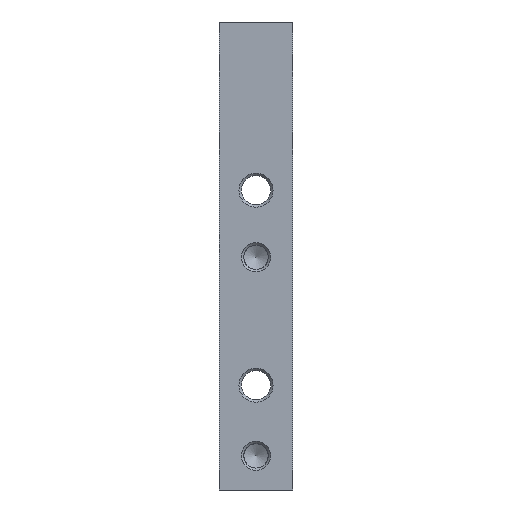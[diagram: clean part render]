
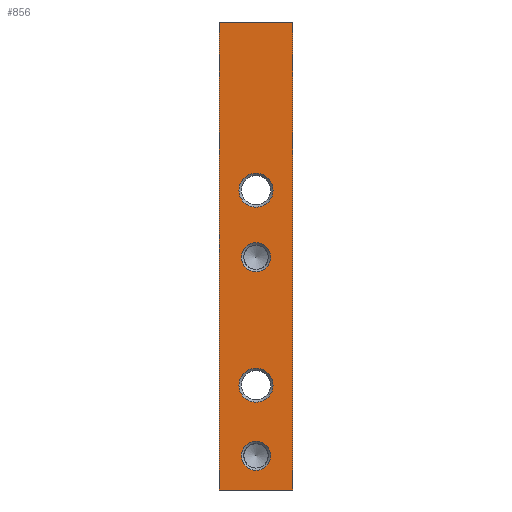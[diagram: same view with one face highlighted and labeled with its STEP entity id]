
A CAD part, left-side view. The second image highlights one B-rep face of the part: STEP entity #856.
In plain terms, the highlighted planar face has unit normal (-1, 0, 0).
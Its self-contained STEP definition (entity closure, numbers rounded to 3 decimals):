
#286=PLANE('',#3210);
#288=LINE('',#4579,#300);
#292=LINE('',#4646,#304);
#296=LINE('',#4749,#308);
#299=LINE('',#4780,#311);
#300=VECTOR('',#3618,1.);
#304=VECTOR('',#3682,1.);
#308=VECTOR('',#3782,1.);
#311=VECTOR('',#3817,1.);
#447=FACE_BOUND('',#1276,.T.);
#448=FACE_BOUND('',#1277,.T.);
#449=FACE_BOUND('',#1278,.T.);
#450=FACE_BOUND('',#1279,.T.);
#451=FACE_BOUND('',#1280,.T.);
#856=ADVANCED_FACE('',(#447,#448,#449,#450,#451),#286,.F.);
#1276=EDGE_LOOP('',(#1811));
#1277=EDGE_LOOP('',(#1812));
#1278=EDGE_LOOP('',(#1813));
#1279=EDGE_LOOP('',(#1814));
#1280=EDGE_LOOP('',(#1815,#1816,#1817,#1818));
#1811=ORIENTED_EDGE('',*,*,#2688,.T.);
#1812=ORIENTED_EDGE('',*,*,#2689,.T.);
#1813=ORIENTED_EDGE('',*,*,#2690,.T.);
#1814=ORIENTED_EDGE('',*,*,#2691,.T.);
#1815=ORIENTED_EDGE('',*,*,#2677,.T.);
#1816=ORIENTED_EDGE('',*,*,#2692,.T.);
#1817=ORIENTED_EDGE('',*,*,#2593,.T.);
#1818=ORIENTED_EDGE('',*,*,#2626,.T.);
#2273=VERTEX_POINT('',#4580);
#2274=VERTEX_POINT('',#4581);
#2306=VERTEX_POINT('',#4647);
#2356=VERTEX_POINT('',#4748);
#2365=VERTEX_POINT('',#4773);
#2366=VERTEX_POINT('',#4775);
#2367=VERTEX_POINT('',#4777);
#2368=VERTEX_POINT('',#4779);
#2593=EDGE_CURVE('',#2273,#2274,#288,.T.);
#2626=EDGE_CURVE('',#2274,#2306,#292,.T.);
#2677=EDGE_CURVE('',#2306,#2356,#296,.T.);
#2688=EDGE_CURVE('',#2365,#2365,#2951,.T.);
#2689=EDGE_CURVE('',#2366,#2366,#2952,.T.);
#2690=EDGE_CURVE('',#2367,#2367,#2953,.T.);
#2691=EDGE_CURVE('',#2368,#2368,#2954,.T.);
#2692=EDGE_CURVE('',#2356,#2273,#299,.T.);
#2951=CIRCLE('',#3206,3.5);
#2952=CIRCLE('',#3207,3.5);
#2953=CIRCLE('',#3208,3.);
#2954=CIRCLE('',#3209,3.);
#3206=AXIS2_PLACEMENT_3D('',#4772,#3809,#3810);
#3207=AXIS2_PLACEMENT_3D('',#4774,#3811,#3812);
#3208=AXIS2_PLACEMENT_3D('',#4776,#3813,#3814);
#3209=AXIS2_PLACEMENT_3D('',#4778,#3815,#3816);
#3210=AXIS2_PLACEMENT_3D('',#4781,#3818,#3819);
#3618=DIRECTION('',(0.,0.,1.));
#3682=DIRECTION('',(0.,1.,0.));
#3782=DIRECTION('',(0.,0.,-1.));
#3809=DIRECTION('',(1.,0.,0.));
#3810=DIRECTION('',(0.,0.,-1.));
#3811=DIRECTION('',(1.,0.,0.));
#3812=DIRECTION('',(0.,0.,-1.));
#3813=DIRECTION('',(1.,0.,0.));
#3814=DIRECTION('',(0.,0.,-1.));
#3815=DIRECTION('',(1.,0.,0.));
#3816=DIRECTION('',(0.,0.,-1.));
#3817=DIRECTION('',(0.,-1.,0.));
#3818=DIRECTION('',(1.,0.,0.));
#3819=DIRECTION('',(0.,0.,-1.));
#4579=CARTESIAN_POINT('',(-688.,-7.5,95.));
#4580=CARTESIAN_POINT('',(-688.,-7.5,95.));
#4581=CARTESIAN_POINT('',(-688.,-7.5,191.));
#4646=CARTESIAN_POINT('',(-688.,0.,191.));
#4647=CARTESIAN_POINT('',(-688.,7.5,191.));
#4748=CARTESIAN_POINT('',(-688.,7.5,95.));
#4749=CARTESIAN_POINT('',(-688.,7.5,188.));
#4772=CARTESIAN_POINT('',(-688.,0.,116.5));
#4773=CARTESIAN_POINT('',(-688.,0.,113.));
#4774=CARTESIAN_POINT('',(-688.,0.,156.5));
#4775=CARTESIAN_POINT('',(-688.,0.,153.));
#4776=CARTESIAN_POINT('',(-688.,0.,102.));
#4777=CARTESIAN_POINT('',(-688.,0.,99.));
#4778=CARTESIAN_POINT('',(-688.,0.,142.75));
#4779=CARTESIAN_POINT('',(-688.,0.,139.75));
#4780=CARTESIAN_POINT('',(-688.,0.,95.));
#4781=CARTESIAN_POINT('',(-688.,0.,156.5));
